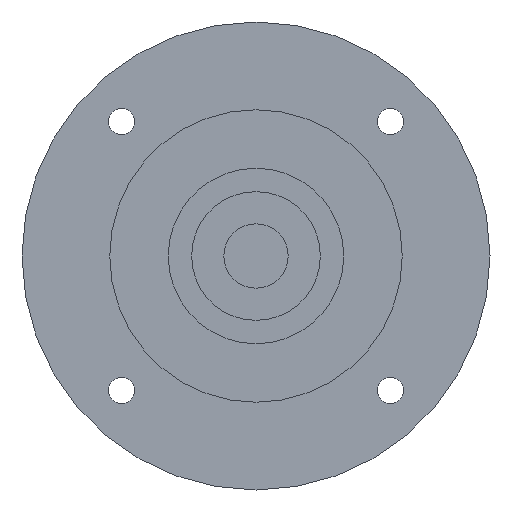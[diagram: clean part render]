
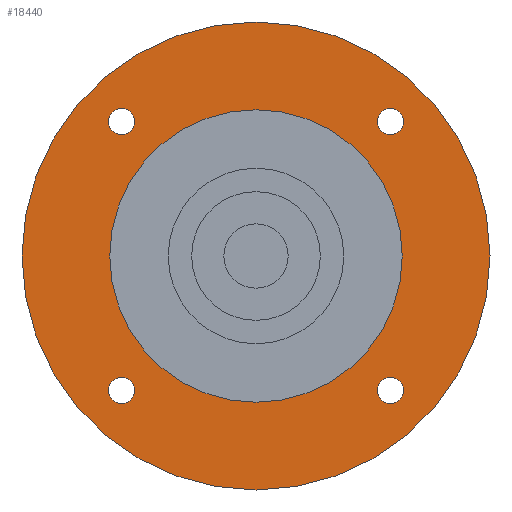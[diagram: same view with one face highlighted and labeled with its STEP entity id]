
A CAD part, left-side view. The second image highlights one B-rep face of the part: STEP entity #18440.
In plain terms, the highlighted planar face has unit normal (-1, 0, 0) as drawn and (0, 0, -1) by its records, which use the part's own axes.
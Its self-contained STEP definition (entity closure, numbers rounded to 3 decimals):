
#11090=CARTESIAN_POINT('',(40.,0.,-58.));
#11100=VERTEX_POINT('',#11090);
#11150=CARTESIAN_POINT('',(0.,0.,
-58.));
#11160=DIRECTION('',(0.,0.,1.));
#11170=DIRECTION('',(1.,0.,0.));
#11180=AXIS2_PLACEMENT_3D('',#11150,#11160,#11170);
#11190=CIRCLE('',#11180,40.);
#11200=CARTESIAN_POINT('',(-40.,0.,-58.));
#11210=VERTEX_POINT('',#11200);
#11220=EDGE_CURVE('',#11210,#11100,#11190,.T.);
#12850=CARTESIAN_POINT('',(-20.731,-22.981,-58.));
#12860=VERTEX_POINT('',#12850);
#13040=CARTESIAN_POINT('',(-25.231,-22.981,-58.));
#13050=VERTEX_POINT('',#13040);
#13080=CARTESIAN_POINT('',(-22.981,-22.981,-58.));
#13090=DIRECTION('',(0.,0.,-1.));
#13100=DIRECTION('',(0.,-1.,0.));
#13110=AXIS2_PLACEMENT_3D('',#13080,#13090,#13100);
#13120=CIRCLE('',#13110,2.25);
#13130=CARTESIAN_POINT('',(-22.981,-25.231,-58.));
#13140=VERTEX_POINT('',#13130);
#13150=EDGE_CURVE('',#13140,#13050,#13120,.T.);
#13170=EDGE_CURVE('',#12860,#13140,#13120,.T.);
#17420=CARTESIAN_POINT('',(20.731,22.981,-58.));
#17430=VERTEX_POINT('',#17420);
#17510=CARTESIAN_POINT('',(25.231,22.981,-58.));
#17520=VERTEX_POINT('',#17510);
#17550=CARTESIAN_POINT('',(22.981,22.981,-58.));
#17560=DIRECTION('',(0.,0.,-1.));
#17570=DIRECTION('',(0.,1.,0.));
#17580=AXIS2_PLACEMENT_3D('',#17550,#17560,#17570);
#17590=CIRCLE('',#17580,2.25);
#17600=CARTESIAN_POINT('',(22.981,25.231,-58.));
#17610=VERTEX_POINT('',#17600);
#17620=EDGE_CURVE('',#17610,#17520,#17590,.T.);
#17640=EDGE_CURVE('',#17430,#17610,#17590,.T.);
#17690=CARTESIAN_POINT('',(0.,0.,
-58.));
#17700=DIRECTION('',(0.,0.,1.));
#17710=DIRECTION('',(-1.,0.,0.));
#17720=AXIS2_PLACEMENT_3D('',#17690,#17700,#17710);
#17730=PLANE('',#17720);
#17740=CARTESIAN_POINT('',(0.,0.,
-58.));
#17750=DIRECTION('',(0.,0.,-1.));
#17760=DIRECTION('',(0.,-1.,0.));
#17770=AXIS2_PLACEMENT_3D('',#17740,#17750,#17760);
#17780=CIRCLE('',#17770,25.);
#17790=CARTESIAN_POINT('',(0.,-25.,-58.));
#17800=VERTEX_POINT('',#17790);
#17810=CARTESIAN_POINT('',(0.,25.,-58.));
#17820=VERTEX_POINT('',#17810);
#17830=EDGE_CURVE('',#17800,#17820,#17780,.T.);
#17840=ORIENTED_EDGE('',*,*,#17830,.F.);
#17850=EDGE_CURVE('',#17820,#17800,#17780,.T.);
#17860=ORIENTED_EDGE('',*,*,#17850,.F.);
#17870=EDGE_LOOP('',(#17860,#17840));
#17880=FACE_BOUND('',#17870,.T.);
#17890=CARTESIAN_POINT('',(22.981,-22.981,-58.));
#17900=DIRECTION('',(0.,0.,-1.));
#17910=DIRECTION('',(1.,0.,0.));
#17920=AXIS2_PLACEMENT_3D('',#17890,#17900,#17910);
#17930=CIRCLE('',#17920,2.25);
#17940=CARTESIAN_POINT('',(25.231,-22.981,-58.));
#17950=VERTEX_POINT('',#17940);
#17960=CARTESIAN_POINT('',(22.981,-25.231,-58.));
#17970=VERTEX_POINT('',#17960);
#17980=EDGE_CURVE('',#17950,#17970,#17930,.T.);
#17990=ORIENTED_EDGE('',*,*,#17980,.F.);
#18000=CARTESIAN_POINT('',(22.981,-20.731,-58.));
#18010=VERTEX_POINT('',#18000);
#18020=EDGE_CURVE('',#17970,#18010,#17930,.T.);
#18030=ORIENTED_EDGE('',*,*,#18020,.F.);
#18040=EDGE_CURVE('',#18010,#17950,#17930,.T.);
#18050=ORIENTED_EDGE('',*,*,#18040,.F.);
#18060=EDGE_LOOP('',(#18050,#18030,#17990));
#18070=FACE_BOUND('',#18060,.T.);
#18080=ORIENTED_EDGE('',*,*,#17620,.F.);
#18090=EDGE_CURVE('',#17520,#17430,#17590,.T.);
#18100=ORIENTED_EDGE('',*,*,#18090,.F.);
#18110=ORIENTED_EDGE('',*,*,#17640,.F.);
#18120=EDGE_LOOP('',(#18110,#18100,#18080));
#18130=FACE_BOUND('',#18120,.T.);
#18140=CARTESIAN_POINT('',(-22.981,22.981,-58.));
#18150=DIRECTION('',(0.,0.,-1.));
#18160=DIRECTION('',(-1.,0.,0.));
#18170=AXIS2_PLACEMENT_3D('',#18140,#18150,#18160);
#18180=CIRCLE('',#18170,2.25);
#18190=CARTESIAN_POINT('',(-25.231,22.981,-58.));
#18200=VERTEX_POINT('',#18190);
#18210=CARTESIAN_POINT('',(-22.981,25.231,-58.));
#18220=VERTEX_POINT('',#18210);
#18230=EDGE_CURVE('',#18200,#18220,#18180,.T.);
#18240=ORIENTED_EDGE('',*,*,#18230,.F.);
#18250=CARTESIAN_POINT('',(-22.981,20.731,-58.));
#18260=VERTEX_POINT('',#18250);
#18270=EDGE_CURVE('',#18220,#18260,#18180,.T.);
#18280=ORIENTED_EDGE('',*,*,#18270,.F.);
#18290=EDGE_CURVE('',#18260,#18200,#18180,.T.);
#18300=ORIENTED_EDGE('',*,*,#18290,.F.);
#18310=EDGE_LOOP('',(#18300,#18280,#18240));
#18320=FACE_BOUND('',#18310,.T.);
#18330=ORIENTED_EDGE('',*,*,#13150,.F.);
#18340=EDGE_CURVE('',#13050,#12860,#13120,.T.);
#18350=ORIENTED_EDGE('',*,*,#18340,.F.);
#18360=ORIENTED_EDGE('',*,*,#13170,.F.);
#18370=EDGE_LOOP('',(#18360,#18350,#18330));
#18380=FACE_BOUND('',#18370,.T.);
#18390=EDGE_CURVE('',#11100,#11210,#11190,.T.);
#18400=ORIENTED_EDGE('',*,*,#18390,.F.);
#18410=ORIENTED_EDGE('',*,*,#11220,.F.);
#18420=EDGE_LOOP('',(#18410,#18400));
#18430=FACE_OUTER_BOUND('',#18420,.T.);
#18440=ADVANCED_FACE('',(#17880,#18070,#18130,#18320,#18380,#18430),
#17730,.F.);
